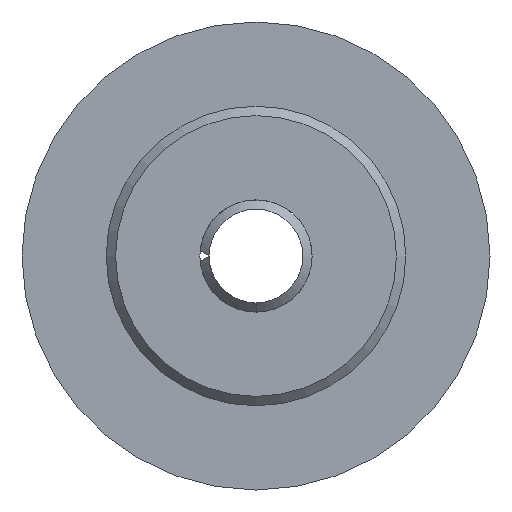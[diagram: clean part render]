
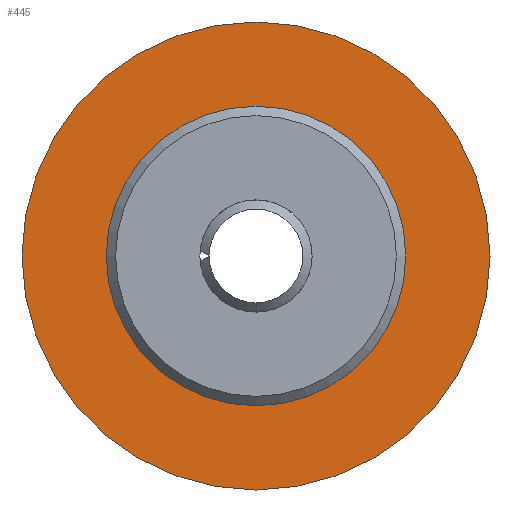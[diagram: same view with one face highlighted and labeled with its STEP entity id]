
A CAD part, left-side view. The second image highlights one B-rep face of the part: STEP entity #445.
In plain terms, the highlighted planar face has unit normal (-1, 0, 0).
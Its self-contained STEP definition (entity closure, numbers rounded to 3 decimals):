
#43=FACE_BOUND('',#91,.T.);
#47=PLANE('',#570);
#64=FACE_OUTER_BOUND('',#90,.T.);
#90=EDGE_LOOP('',(#372,#373));
#91=EDGE_LOOP('',(#374,#375));
#138=CIRCLE('',#527,16.);
#139=CIRCLE('',#528,16.);
#166=CIRCLE('',#563,25.);
#167=CIRCLE('',#564,25.);
#185=VERTEX_POINT('',#776);
#186=VERTEX_POINT('',#777);
#211=VERTEX_POINT('',#843);
#212=VERTEX_POINT('',#845);
#232=EDGE_CURVE('',#185,#186,#138,.T.);
#233=EDGE_CURVE('',#186,#185,#139,.T.);
#266=EDGE_CURVE('',#211,#212,#166,.T.);
#267=EDGE_CURVE('',#212,#211,#167,.T.);
#372=ORIENTED_EDGE('',*,*,#267,.F.);
#373=ORIENTED_EDGE('',*,*,#266,.F.);
#374=ORIENTED_EDGE('',*,*,#232,.T.);
#375=ORIENTED_EDGE('',*,*,#233,.T.);
#445=ADVANCED_FACE('',(#64,#43),#47,.T.);
#527=AXIS2_PLACEMENT_3D('',#778,#614,#615);
#528=AXIS2_PLACEMENT_3D('',#779,#616,#617);
#563=AXIS2_PLACEMENT_3D('',#846,#692,#693);
#564=AXIS2_PLACEMENT_3D('',#847,#694,#695);
#570=AXIS2_PLACEMENT_3D('',#858,#708,#709);
#614=DIRECTION('center_axis',(1.,0.,0.));
#615=DIRECTION('ref_axis',(0.,0.,-1.));
#616=DIRECTION('center_axis',(1.,0.,0.));
#617=DIRECTION('ref_axis',(0.,0.,-1.));
#692=DIRECTION('center_axis',(1.,0.,0.));
#693=DIRECTION('ref_axis',(0.,0.,-1.));
#694=DIRECTION('center_axis',(1.,0.,0.));
#695=DIRECTION('ref_axis',(0.,0.,-1.));
#708=DIRECTION('center_axis',(-1.,0.,0.));
#709=DIRECTION('ref_axis',(0.,0.,1.));
#776=CARTESIAN_POINT('',(-6.,16.,0.));
#777=CARTESIAN_POINT('',(-6.,-16.,0.));
#778=CARTESIAN_POINT('Origin',(-6.,0.,0.));
#779=CARTESIAN_POINT('Origin',(-6.,0.,0.));
#843=CARTESIAN_POINT('',(-6.,-25.,0.));
#845=CARTESIAN_POINT('',(-6.,25.,0.));
#846=CARTESIAN_POINT('Origin',(-6.,0.,0.));
#847=CARTESIAN_POINT('Origin',(-6.,0.,0.));
#858=CARTESIAN_POINT('Origin',(-6.,25.,0.));
